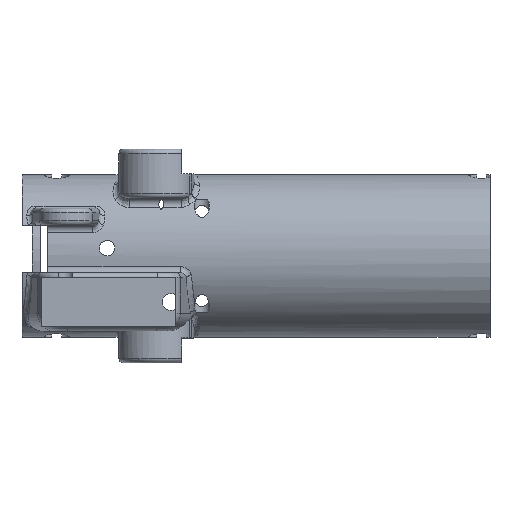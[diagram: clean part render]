
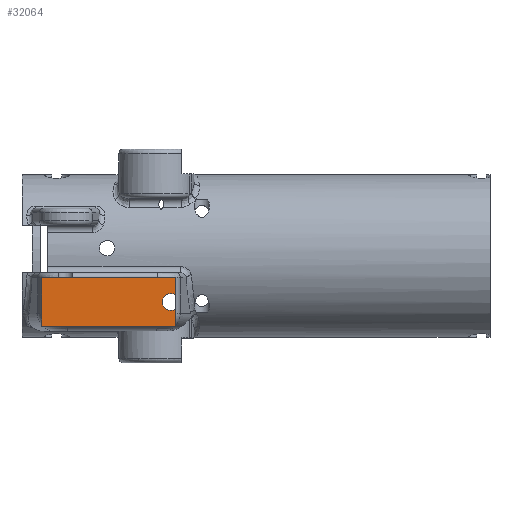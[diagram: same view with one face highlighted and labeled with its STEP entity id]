
A CAD part, top view. The second image highlights one B-rep face of the part: STEP entity #32064.
In plain terms, the highlighted planar face has unit normal (0, 0, 1).
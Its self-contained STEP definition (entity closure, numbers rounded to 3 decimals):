
#17306 = CYLINDRICAL_SURFACE('',#17307,2.2);
#17307 = AXIS2_PLACEMENT_3D('',#17308,#17309,#17310);
#17308 = CARTESIAN_POINT('',(58.44,-11.9,12.));
#17309 = DIRECTION('',(0.,0.,1.));
#17310 = DIRECTION('',(1.,0.,-0.));
#23792 = PLANE('',#23793);
#23793 = AXIS2_PLACEMENT_3D('',#23794,#23795,#23796);
#23794 = CARTESIAN_POINT('',(25.1,-18.3,21.1));
#23795 = DIRECTION('',(-0.,1.,0.));
#23796 = DIRECTION('',(0.,0.,1.));
#23824 = PLANE('',#23825);
#23825 = AXIS2_PLACEMENT_3D('',#23826,#23827,#23828);
#23826 = CARTESIAN_POINT('',(59.74,-18.3,21.1));
#23827 = DIRECTION('',(1.,0.,-0.));
#23828 = DIRECTION('',(0.,0.,1.));
#26036 = VERTEX_POINT('',#26037);
#26037 = CARTESIAN_POINT('',(59.74,-13.675,21.1));
#26056 = EDGE_CURVE('',#26057,#26036,#26059,.T.);
#26057 = VERTEX_POINT('',#26058);
#26058 = CARTESIAN_POINT('',(59.74,-10.125,21.1));
#26059 = SURFACE_CURVE('',#26060,(#26065,#26072),.PCURVE_S1.);
#26060 = CIRCLE('',#26061,2.2);
#26061 = AXIS2_PLACEMENT_3D('',#26062,#26063,#26064);
#26062 = CARTESIAN_POINT('',(58.44,-11.9,21.1));
#26063 = DIRECTION('',(0.,0.,1.));
#26064 = DIRECTION('',(1.,0.,-0.));
#26065 = PCURVE('',#17306,#26066);
#26066 = DEFINITIONAL_REPRESENTATION('',(#26067),#26071);
#26067 = LINE('',#26068,#26069);
#26068 = CARTESIAN_POINT('',(0.,9.1));
#26069 = VECTOR('',#26070,1.);
#26070 = DIRECTION('',(1.,0.));
#26071 = ( GEOMETRIC_REPRESENTATION_CONTEXT(2) 
PARAMETRIC_REPRESENTATION_CONTEXT() REPRESENTATION_CONTEXT('2D SPACE',''
  ) );
#26072 = PCURVE('',#26073,#26078);
#26073 = PLANE('',#26074);
#26074 = AXIS2_PLACEMENT_3D('',#26075,#26076,#26077);
#26075 = CARTESIAN_POINT('',(25.1,-18.3,21.1));
#26076 = DIRECTION('',(0.,0.,1.));
#26077 = DIRECTION('',(1.,0.,-0.));
#26078 = DEFINITIONAL_REPRESENTATION('',(#26079),#26083);
#26079 = CIRCLE('',#26080,2.2);
#26080 = AXIS2_PLACEMENT_2D('',#26081,#26082);
#26081 = CARTESIAN_POINT('',(33.34,6.4));
#26082 = DIRECTION('',(1.,0.));
#26083 = ( GEOMETRIC_REPRESENTATION_CONTEXT(2) 
PARAMETRIC_REPRESENTATION_CONTEXT() REPRESENTATION_CONTEXT('2D SPACE',''
  ) );
#30474 = VERTEX_POINT('',#30475);
#30475 = CARTESIAN_POINT('',(59.74,-18.3,21.1));
#30496 = EDGE_CURVE('',#30474,#26036,#30497,.T.);
#30497 = SURFACE_CURVE('',#30498,(#30502,#30509),.PCURVE_S1.);
#30498 = LINE('',#30499,#30500);
#30499 = CARTESIAN_POINT('',(59.74,-18.3,21.1));
#30500 = VECTOR('',#30501,1.);
#30501 = DIRECTION('',(-0.,1.,0.));
#30502 = PCURVE('',#23824,#30503);
#30503 = DEFINITIONAL_REPRESENTATION('',(#30504),#30508);
#30504 = LINE('',#30505,#30506);
#30505 = CARTESIAN_POINT('',(0.,0.));
#30506 = VECTOR('',#30507,1.);
#30507 = DIRECTION('',(0.,-1.));
#30508 = ( GEOMETRIC_REPRESENTATION_CONTEXT(2) 
PARAMETRIC_REPRESENTATION_CONTEXT() REPRESENTATION_CONTEXT('2D SPACE',''
  ) );
#30509 = PCURVE('',#26073,#30510);
#30510 = DEFINITIONAL_REPRESENTATION('',(#30511),#30515);
#30511 = LINE('',#30512,#30513);
#30512 = CARTESIAN_POINT('',(34.64,0.));
#30513 = VECTOR('',#30514,1.);
#30514 = DIRECTION('',(0.,1.));
#30515 = ( GEOMETRIC_REPRESENTATION_CONTEXT(2) 
PARAMETRIC_REPRESENTATION_CONTEXT() REPRESENTATION_CONTEXT('2D SPACE',''
  ) );
#30538 = EDGE_CURVE('',#26057,#30539,#30541,.T.);
#30539 = VERTEX_POINT('',#30540);
#30540 = CARTESIAN_POINT('',(59.74,-5.5,21.1));
#30541 = SURFACE_CURVE('',#30542,(#30546,#30553),.PCURVE_S1.);
#30542 = LINE('',#30543,#30544);
#30543 = CARTESIAN_POINT('',(59.74,-18.3,21.1));
#30544 = VECTOR('',#30545,1.);
#30545 = DIRECTION('',(-0.,1.,0.));
#30546 = PCURVE('',#23824,#30547);
#30547 = DEFINITIONAL_REPRESENTATION('',(#30548),#30552);
#30548 = LINE('',#30549,#30550);
#30549 = CARTESIAN_POINT('',(0.,0.));
#30550 = VECTOR('',#30551,1.);
#30551 = DIRECTION('',(0.,-1.));
#30552 = ( GEOMETRIC_REPRESENTATION_CONTEXT(2) 
PARAMETRIC_REPRESENTATION_CONTEXT() REPRESENTATION_CONTEXT('2D SPACE',''
  ) );
#30553 = PCURVE('',#26073,#30554);
#30554 = DEFINITIONAL_REPRESENTATION('',(#30555),#30559);
#30555 = LINE('',#30556,#30557);
#30556 = CARTESIAN_POINT('',(34.64,0.));
#30557 = VECTOR('',#30558,1.);
#30558 = DIRECTION('',(0.,1.));
#30559 = ( GEOMETRIC_REPRESENTATION_CONTEXT(2) 
PARAMETRIC_REPRESENTATION_CONTEXT() REPRESENTATION_CONTEXT('2D SPACE',''
  ) );
#30577 = PLANE('',#30578);
#30578 = AXIS2_PLACEMENT_3D('',#30579,#30580,#30581);
#30579 = CARTESIAN_POINT('',(25.1,-5.5,21.1));
#30580 = DIRECTION('',(-0.,1.,0.));
#30581 = DIRECTION('',(0.,0.,1.));
#30718 = EDGE_CURVE('',#30719,#30474,#30721,.T.);
#30719 = VERTEX_POINT('',#30720);
#30720 = CARTESIAN_POINT('',(25.1,-18.3,21.1));
#30721 = SURFACE_CURVE('',#30722,(#30726,#30733),.PCURVE_S1.);
#30722 = LINE('',#30723,#30724);
#30723 = CARTESIAN_POINT('',(25.1,-18.3,21.1));
#30724 = VECTOR('',#30725,1.);
#30725 = DIRECTION('',(1.,0.,-0.));
#30726 = PCURVE('',#23792,#30727);
#30727 = DEFINITIONAL_REPRESENTATION('',(#30728),#30732);
#30728 = LINE('',#30729,#30730);
#30729 = CARTESIAN_POINT('',(0.,0.));
#30730 = VECTOR('',#30731,1.);
#30731 = DIRECTION('',(0.,1.));
#30732 = ( GEOMETRIC_REPRESENTATION_CONTEXT(2) 
PARAMETRIC_REPRESENTATION_CONTEXT() REPRESENTATION_CONTEXT('2D SPACE',''
  ) );
#30733 = PCURVE('',#26073,#30734);
#30734 = DEFINITIONAL_REPRESENTATION('',(#30735),#30739);
#30735 = LINE('',#30736,#30737);
#30736 = CARTESIAN_POINT('',(0.,0.));
#30737 = VECTOR('',#30738,1.);
#30738 = DIRECTION('',(1.,0.));
#30739 = ( GEOMETRIC_REPRESENTATION_CONTEXT(2) 
PARAMETRIC_REPRESENTATION_CONTEXT() REPRESENTATION_CONTEXT('2D SPACE',''
  ) );
#30757 = PLANE('',#30758);
#30758 = AXIS2_PLACEMENT_3D('',#30759,#30760,#30761);
#30759 = CARTESIAN_POINT('',(25.1,-18.3,21.1));
#30760 = DIRECTION('',(1.,0.,-0.));
#30761 = DIRECTION('',(0.,0.,1.));
#32064 = ADVANCED_FACE('',(#32065),#26073,.T.);
#32065 = FACE_BOUND('',#32066,.T.);
#32066 = EDGE_LOOP('',(#32067,#32090,#32111,#32112,#32113,#32114));
#32067 = ORIENTED_EDGE('',*,*,#32068,.F.);
#32068 = EDGE_CURVE('',#32069,#30539,#32071,.T.);
#32069 = VERTEX_POINT('',#32070);
#32070 = CARTESIAN_POINT('',(25.1,-5.5,21.1));
#32071 = SURFACE_CURVE('',#32072,(#32076,#32083),.PCURVE_S1.);
#32072 = LINE('',#32073,#32074);
#32073 = CARTESIAN_POINT('',(25.1,-5.5,21.1));
#32074 = VECTOR('',#32075,1.);
#32075 = DIRECTION('',(1.,0.,-0.));
#32076 = PCURVE('',#26073,#32077);
#32077 = DEFINITIONAL_REPRESENTATION('',(#32078),#32082);
#32078 = LINE('',#32079,#32080);
#32079 = CARTESIAN_POINT('',(0.,12.8));
#32080 = VECTOR('',#32081,1.);
#32081 = DIRECTION('',(1.,0.));
#32082 = ( GEOMETRIC_REPRESENTATION_CONTEXT(2) 
PARAMETRIC_REPRESENTATION_CONTEXT() REPRESENTATION_CONTEXT('2D SPACE',''
  ) );
#32083 = PCURVE('',#30577,#32084);
#32084 = DEFINITIONAL_REPRESENTATION('',(#32085),#32089);
#32085 = LINE('',#32086,#32087);
#32086 = CARTESIAN_POINT('',(0.,0.));
#32087 = VECTOR('',#32088,1.);
#32088 = DIRECTION('',(0.,1.));
#32089 = ( GEOMETRIC_REPRESENTATION_CONTEXT(2) 
PARAMETRIC_REPRESENTATION_CONTEXT() REPRESENTATION_CONTEXT('2D SPACE',''
  ) );
#32090 = ORIENTED_EDGE('',*,*,#32091,.F.);
#32091 = EDGE_CURVE('',#30719,#32069,#32092,.T.);
#32092 = SURFACE_CURVE('',#32093,(#32097,#32104),.PCURVE_S1.);
#32093 = LINE('',#32094,#32095);
#32094 = CARTESIAN_POINT('',(25.1,-18.3,21.1));
#32095 = VECTOR('',#32096,1.);
#32096 = DIRECTION('',(-0.,1.,0.));
#32097 = PCURVE('',#26073,#32098);
#32098 = DEFINITIONAL_REPRESENTATION('',(#32099),#32103);
#32099 = LINE('',#32100,#32101);
#32100 = CARTESIAN_POINT('',(0.,0.));
#32101 = VECTOR('',#32102,1.);
#32102 = DIRECTION('',(0.,1.));
#32103 = ( GEOMETRIC_REPRESENTATION_CONTEXT(2) 
PARAMETRIC_REPRESENTATION_CONTEXT() REPRESENTATION_CONTEXT('2D SPACE',''
  ) );
#32104 = PCURVE('',#30757,#32105);
#32105 = DEFINITIONAL_REPRESENTATION('',(#32106),#32110);
#32106 = LINE('',#32107,#32108);
#32107 = CARTESIAN_POINT('',(0.,0.));
#32108 = VECTOR('',#32109,1.);
#32109 = DIRECTION('',(0.,-1.));
#32110 = ( GEOMETRIC_REPRESENTATION_CONTEXT(2) 
PARAMETRIC_REPRESENTATION_CONTEXT() REPRESENTATION_CONTEXT('2D SPACE',''
  ) );
#32111 = ORIENTED_EDGE('',*,*,#30718,.T.);
#32112 = ORIENTED_EDGE('',*,*,#30496,.T.);
#32113 = ORIENTED_EDGE('',*,*,#26056,.F.);
#32114 = ORIENTED_EDGE('',*,*,#30538,.T.);
